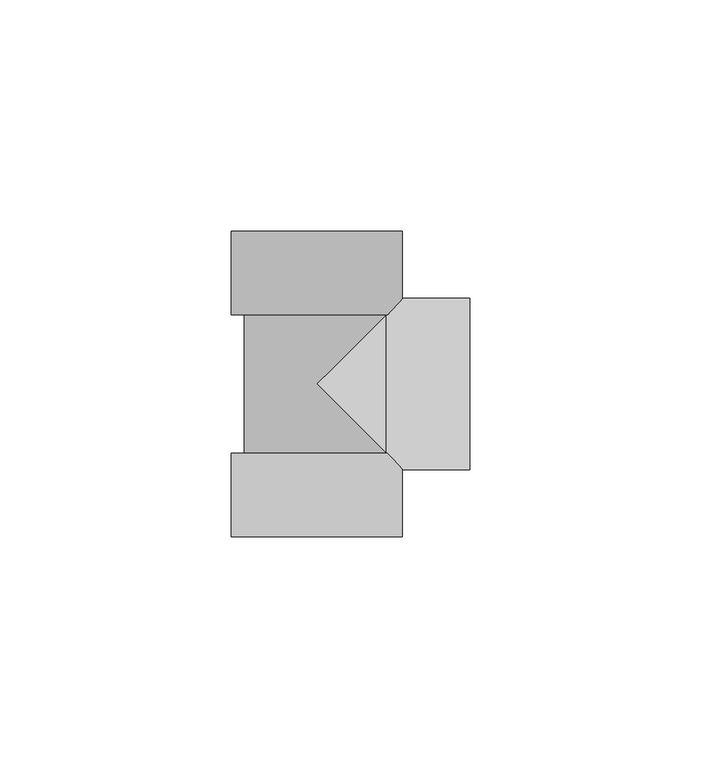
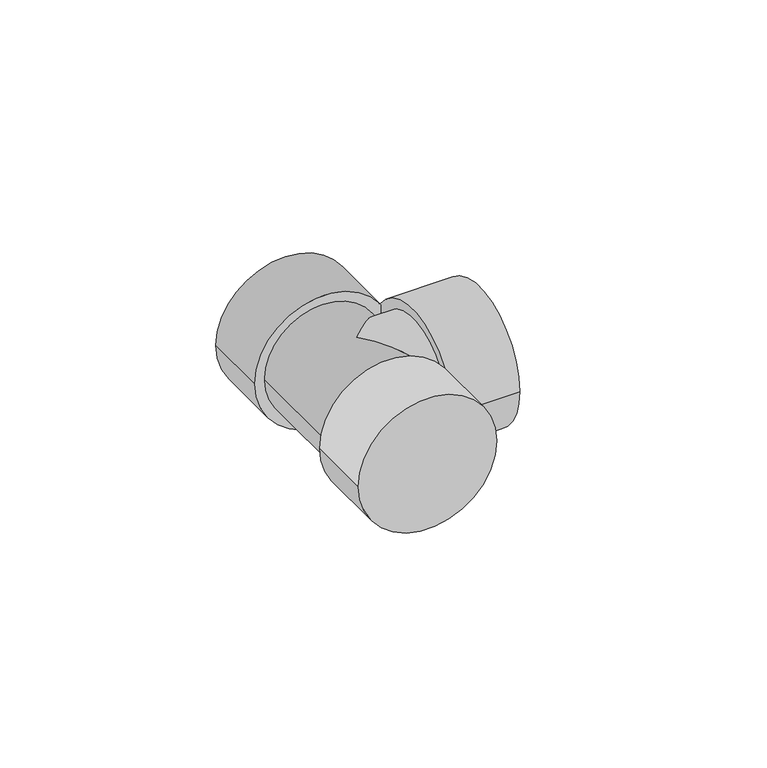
"""IFC4 building model written with IfcOpenShell, lengths in millimetres: pipe fitting geometry, 01011003 : Tes 90º."""

from ifc_helpers import new_model, si_unit, point, frame, origin, origin_2d, place, context, project, spatial, circle_curve, ellipse_curve, trimmed, segment, composite_curve, outline, extrude, source, transform, mapped, element, save
from ifc_brep_helpers import plane_surface, cylinder_surface, advanced_brep


def pipe_fitting_1c9a0560(model_context):
    return source(origin(), model_context, "Body", "SolidModel", [
        advanced_brep(
        [(-15.725, 17.0, 0.0), (15.725, 17.0, 0.0), (-15.725, -17.0, 0.0), (15.725, -17.0, 0.0), (15.725, -15.725, 0.0), (0.0, 0.0, 15.725), (15.725, 15.725, 0.0), (0.0, 0.0, -15.725), (17.0, 15.725, 0.0), (17.0, -15.725, 0.0)],
        [
            (0, 1, circle_curve(frame((0.0, 17.0, 0.0), z_axis=(0.0, 1.0, 0.0), x_axis=(1.0, 0.0, 0.0)), 15.725)),
            (1, 0, circle_curve(frame((0.0, 17.0, 0.0), z_axis=(0.0, 1.0, 0.0), x_axis=(1.0, 0.0, 0.0)), 15.725)),
            (2, 3, circle_curve(frame((0.0, -17.0, 0.0), z_axis=(0.0, -1.0, 0.0), x_axis=(1.0, 0.0, 0.0)), 15.725)),
            (3, 2, circle_curve(frame((0.0, -17.0, 0.0), z_axis=(0.0, -1.0, 0.0), x_axis=(1.0, 0.0, 0.0)), 15.725)),
            (0, 2),
            (3, 4),
            (4, 5, ellipse_curve(frame((0.0, 0.0, 0.0), z_axis=(-0.7071067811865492, -0.7071067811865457, 0.0), x_axis=(-0.7071067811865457, 0.7071067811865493, 0.0)), 22.2385083, 15.725)),
            (5, 6, ellipse_curve(frame((0.0, 0.0, 0.0), z_axis=(-0.7071067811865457, 0.7071067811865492, 0.0), x_axis=(0.7071067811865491, 0.7071067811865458, 0.0)), 22.2385083, 15.725)),
            (6, 1),
            (6, 7, ellipse_curve(frame((0.0, 0.0, 0.0), z_axis=(-0.7071067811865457, 0.7071067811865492, 0.0), x_axis=(0.7071067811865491, 0.7071067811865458, 0.0)), 22.2385083, 15.725)),
            (7, 4, ellipse_curve(frame((0.0, 0.0, 0.0), z_axis=(-0.7071067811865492, -0.7071067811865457, 0.0), x_axis=(-0.7071067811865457, 0.7071067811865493, 0.0)), 22.2385083, 15.725)),
            (8, 9, circle_curve(frame((17.0, 0.0, 0.0), z_axis=(1.0, 0.0, 0.0), x_axis=(0.0, -1.0, 0.0)), 15.725)),
            (9, 8, circle_curve(frame((17.0, 0.0, 0.0), z_axis=(1.0, 0.0, 0.0), x_axis=(0.0, -1.0, 0.0)), 15.725)),
            (8, 6),
            (4, 9),
        ],
        [
            plane_surface(frame((0.0, 17.0, 0.0), z_axis=(0.0, 1.0, 0.0), x_axis=(0.0, 0.0, 1.0))),
            plane_surface(frame((0.0, -17.0, 0.0), z_axis=(0.0, -1.0, 0.0), x_axis=(0.0, 0.0, 1.0))),
            cylinder_surface(frame((0.0, 17.0, 0.0), z_axis=(0.0, 1.0, 0.0), x_axis=(1.0, 0.0, 0.0)), 15.725),
            plane_surface(frame((17.0, 0.0, 0.0), z_axis=(1.0, 0.0, 0.0), x_axis=(0.0, 0.0, 1.0))),
            cylinder_surface(frame((17.0, 0.0, 0.0), z_axis=(1.0, 0.0, 0.0), x_axis=(0.0, -1.0, 0.0)), 15.725),
        ],
        [
            (0, [[1, 2]]),
            (1, [[3, 4]]),
            (2, [[-1, 5, -4, 6, 7, 8, 9]]),
            (2, [[-2, -9, 10, 11, -6, -3, -5]]),
            (3, [[12, 13]]),
            (4, [[-12, 14, -8, -7, 15]]),
            (4, [[-13, -15, -11, -10, -14]]),
        ],
    ),
        extrude(outline(composite_curve([segment(trimmed(circle_curve(origin_2d(), 18.5), [point((0.0, -18.5))], [point((0.0, 18.5))], False, "CARTESIAN"), True, "CONTINUOUS"), segment(trimmed(circle_curve(origin_2d(), 18.5), [point((0.0, 18.5))], [point((0.0, -18.5))], False, "CARTESIAN"), True, "CONTINUOUS")], self_intersect=False)), frame((0.0, 15.0, 0.0), z_axis=(0.0, 1.0, 0.0), x_axis=(0.0, 0.0, 1.0)), (0.0, 0.0, 1.0), 18.0),
        extrude(outline(composite_curve([segment(trimmed(circle_curve(origin_2d(), 18.5), [point((0.0, 18.5))], [point((0.0, -18.5))], False, "CARTESIAN"), True, "CONTINUOUS"), segment(trimmed(circle_curve(origin_2d(), 18.5), [point((0.0, -18.5))], [point((0.0, 18.5))], False, "CARTESIAN"), True, "CONTINUOUS")], self_intersect=False)), frame((0.0, -33.0, 0.0), z_axis=(0.0, 1.0, 0.0), x_axis=(0.0, 0.0, 1.0)), (0.0, 0.0, 1.0), 18.0),
        extrude(outline(composite_curve([segment(trimmed(circle_curve(origin_2d(), 18.5), [point((18.5, 0.0))], [point((-18.5, 0.0))], False, "CARTESIAN"), True, "CONTINUOUS"), segment(trimmed(circle_curve(origin_2d(), 18.5), [point((-18.5, 0.0))], [point((18.5, 0.0))], False, "CARTESIAN"), True, "CONTINUOUS")], self_intersect=False)), frame((15.0, 0.0, 0.0), z_axis=(1.0, 0.0, 0.0), x_axis=(0.0, 1.0, 0.0)), (0.0, 0.0, 1.0), 18.0),
    ])


if __name__ == "__main__":
    model = new_model("IFC4")
    model_context = context("Model", 3, world=origin())
    ifc_project = project(units=[si_unit("LENGTHUNIT", "METRE", prefix="MILLI")], contexts=[model_context])
    site = spatial("IfcSite", under=ifc_project)
    building = spatial("IfcBuilding", under=site)
    placement = place(None, origin())
    pipe_fitting_shape = pipe_fitting_1c9a0560(model_context)
    element("IfcPipeFitting", 1, ObjectType="01011003 : Tes 90º", at=placement, inside=building, context=model_context, shape_type="MappedRepresentation", body=[
        mapped(pipe_fitting_shape, transform((0.0, 0.0, 0.0), x_axis=(1.0, 0.0, 0.0), y_axis=(0.0, 1.0, 0.0), z_axis=(0.0, 0.0, 1.0))),
    ])
    save(model, "model.ifc")
